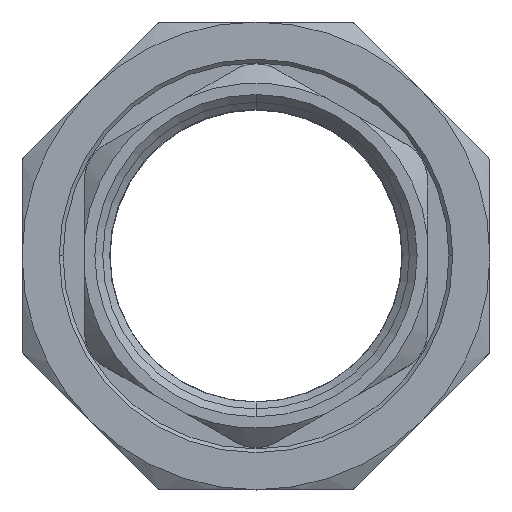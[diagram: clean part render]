
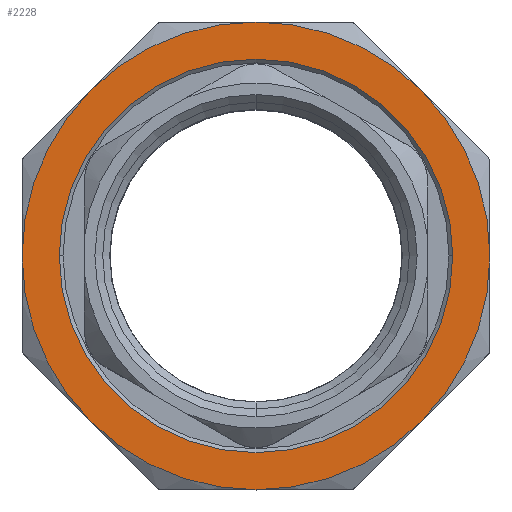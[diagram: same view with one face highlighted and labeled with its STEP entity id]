
A CAD part, top view. The second image highlights one B-rep face of the part: STEP entity #2228.
In plain terms, the highlighted planar face has unit normal (0, 0, 1).
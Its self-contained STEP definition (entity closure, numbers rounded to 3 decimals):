
#1447=CARTESIAN_POINT('',(0.,0.,6.8));
#1448=DIRECTION('',(0.,0.,-1.));
#1449=DIRECTION('',(-1.,0.,0.));
#1450=AXIS2_PLACEMENT_3D('',#1447,#1448,#1449);
#1452=CARTESIAN_POINT('',(0.,0.,6.8));
#1453=DIRECTION('',(0.,0.,-1.));
#1454=DIRECTION('',(1.,0.,0.));
#1455=AXIS2_PLACEMENT_3D('',#1452,#1453,#1454);
#1457=CARTESIAN_POINT('',(0.,0.,6.8));
#1458=DIRECTION('',(0.,0.,1.));
#1459=DIRECTION('',(1.,0.,0.));
#1460=AXIS2_PLACEMENT_3D('',#1457,#1458,#1459);
#1462=CARTESIAN_POINT('',(0.,0.,6.8));
#1463=DIRECTION('',(0.,0.,1.));
#1464=DIRECTION('',(0.707,-0.707,0.));
#1465=AXIS2_PLACEMENT_3D('',#1462,#1463,#1464);
#1467=CARTESIAN_POINT('',(0.,0.,6.8));
#1468=DIRECTION('',(0.,0.,1.));
#1469=DIRECTION('',(0.,-1.,0.));
#1470=AXIS2_PLACEMENT_3D('',#1467,#1468,#1469);
#1472=CARTESIAN_POINT('',(0.,0.,6.8));
#1473=DIRECTION('',(0.,0.,1.));
#1474=DIRECTION('',(-0.707,-0.707,0.));
#1475=AXIS2_PLACEMENT_3D('',#1472,#1473,#1474);
#1477=CARTESIAN_POINT('',(0.,0.,6.8));
#1478=DIRECTION('',(0.,0.,1.));
#1479=DIRECTION('',(-1.,0.,0.));
#1480=AXIS2_PLACEMENT_3D('',#1477,#1478,#1479);
#1482=CARTESIAN_POINT('',(0.,0.,6.8));
#1483=DIRECTION('',(0.,0.,1.));
#1484=DIRECTION('',(-0.707,0.707,0.));
#1485=AXIS2_PLACEMENT_3D('',#1482,#1483,#1484);
#1487=CARTESIAN_POINT('',(0.,0.,6.8));
#1488=DIRECTION('',(0.,0.,1.));
#1489=DIRECTION('',(0.,1.,0.));
#1490=AXIS2_PLACEMENT_3D('',#1487,#1488,#1489);
#1492=CARTESIAN_POINT('',(0.,0.,6.8));
#1493=DIRECTION('',(0.,0.,1.));
#1494=DIRECTION('',(0.707,0.707,0.));
#1495=AXIS2_PLACEMENT_3D('',#1492,#1493,#1494);
#1918=CARTESIAN_POINT('',(-26.5,0.,6.8));
#1919=CARTESIAN_POINT('',(26.5,0.,6.8));
#1920=VERTEX_POINT('',#1918);
#1921=VERTEX_POINT('',#1919);
#1926=CARTESIAN_POINT('',(31.5,0.,6.8));
#1927=CARTESIAN_POINT('',(22.274,22.274,6.8));
#1928=VERTEX_POINT('',#1926);
#1929=VERTEX_POINT('',#1927);
#1930=CARTESIAN_POINT('',(0.,31.5,6.8));
#1931=VERTEX_POINT('',#1930);
#1932=CARTESIAN_POINT('',(-22.274,22.274,6.8));
#1933=VERTEX_POINT('',#1932);
#1934=CARTESIAN_POINT('',(-31.5,0.,6.8));
#1935=VERTEX_POINT('',#1934);
#1936=CARTESIAN_POINT('',(-22.274,-22.274,6.8));
#1937=VERTEX_POINT('',#1936);
#1938=CARTESIAN_POINT('',(0.,-31.5,6.8));
#1939=VERTEX_POINT('',#1938);
#1940=CARTESIAN_POINT('',(22.274,-22.274,6.8));
#1941=VERTEX_POINT('',#1940);
#2200=CARTESIAN_POINT('',(0.,0.,6.8));
#2201=DIRECTION('',(0.,0.,1.));
#2202=DIRECTION('',(1.,0.,0.));
#2203=AXIS2_PLACEMENT_3D('',#2200,#2201,#2202);
#2204=PLANE('',#2203);
#2206=ORIENTED_EDGE('',*,*,#2205,.F.);
#2208=ORIENTED_EDGE('',*,*,#2207,.F.);
#2210=ORIENTED_EDGE('',*,*,#2209,.F.);
#2212=ORIENTED_EDGE('',*,*,#2211,.F.);
#2214=ORIENTED_EDGE('',*,*,#2213,.F.);
#2216=ORIENTED_EDGE('',*,*,#2215,.F.);
#2218=ORIENTED_EDGE('',*,*,#2217,.F.);
#2220=ORIENTED_EDGE('',*,*,#2219,.F.);
#2221=EDGE_LOOP('',(#2206,#2208,#2210,#2212,#2214,#2216,#2218,#2220));
#2222=FACE_OUTER_BOUND('',#2221,.F.);
#2224=ORIENTED_EDGE('',*,*,#2223,.F.);
#2225=ORIENTED_EDGE('',*,*,#2190,.F.);
#2226=EDGE_LOOP('',(#2224,#2225));
#2227=FACE_BOUND('',#2226,.F.);
#2228=ADVANCED_FACE('',(#2222,#2227),#2204,.T.);
#1451=CIRCLE('',#1450,26.5);
#1456=CIRCLE('',#1455,26.5);
#1461=CIRCLE('',#1460,31.5);
#1466=CIRCLE('',#1465,31.5);
#1471=CIRCLE('',#1470,31.5);
#1476=CIRCLE('',#1475,31.5);
#1481=CIRCLE('',#1480,31.5);
#1486=CIRCLE('',#1485,31.5);
#1491=CIRCLE('',#1490,31.5);
#1496=CIRCLE('',#1495,31.5);
#2190=EDGE_CURVE('',#1921,#1920,#1456,.T.);
#2205=EDGE_CURVE('',#1928,#1929,#1461,.T.);
#2207=EDGE_CURVE('',#1941,#1928,#1466,.T.);
#2209=EDGE_CURVE('',#1939,#1941,#1471,.T.);
#2211=EDGE_CURVE('',#1937,#1939,#1476,.T.);
#2213=EDGE_CURVE('',#1935,#1937,#1481,.T.);
#2215=EDGE_CURVE('',#1933,#1935,#1486,.T.);
#2217=EDGE_CURVE('',#1931,#1933,#1491,.T.);
#2219=EDGE_CURVE('',#1929,#1931,#1496,.T.);
#2223=EDGE_CURVE('',#1920,#1921,#1451,.T.);
